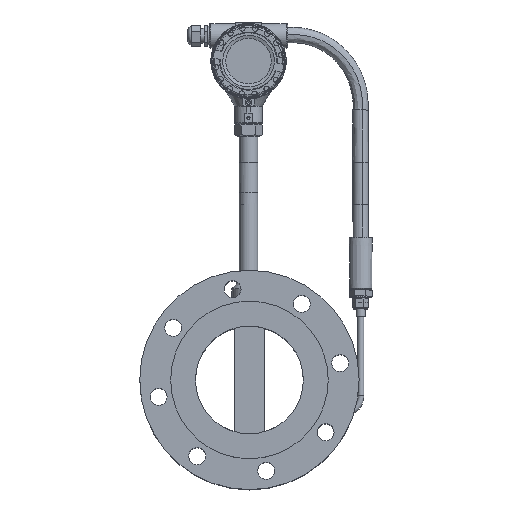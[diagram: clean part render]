
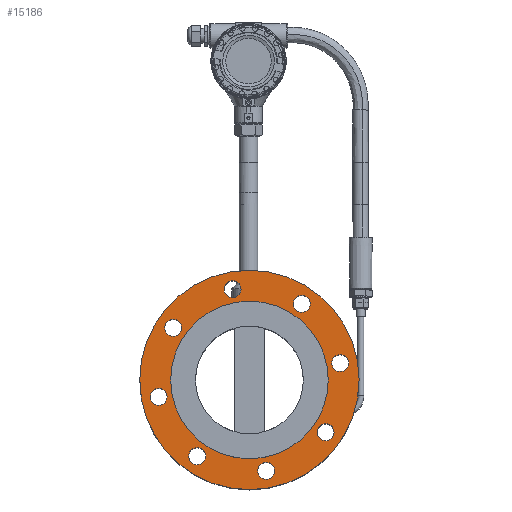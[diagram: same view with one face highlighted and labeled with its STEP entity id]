
A CAD part, top view. The second image highlights one B-rep face of the part: STEP entity #15186.
In plain terms, the highlighted planar face has unit normal (0, 0, 1).
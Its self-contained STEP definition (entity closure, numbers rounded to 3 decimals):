
#578=FACE_BOUND('',#5447,.T.);
#579=FACE_BOUND('',#5448,.T.);
#580=FACE_BOUND('',#5449,.T.);
#581=FACE_BOUND('',#5450,.T.);
#582=FACE_BOUND('',#5451,.T.);
#583=FACE_BOUND('',#5452,.T.);
#584=FACE_BOUND('',#5453,.T.);
#585=FACE_BOUND('',#5454,.T.);
#586=FACE_BOUND('',#5455,.T.);
#1100=PLANE('',#16964);
#4462=FACE_OUTER_BOUND('',#5446,.T.);
#5446=EDGE_LOOP('',(#13864));
#5447=EDGE_LOOP('',(#13865));
#5448=EDGE_LOOP('',(#13866));
#5449=EDGE_LOOP('',(#13867));
#5450=EDGE_LOOP('',(#13868));
#5451=EDGE_LOOP('',(#13869));
#5452=EDGE_LOOP('',(#13870));
#5453=EDGE_LOOP('',(#13871));
#5454=EDGE_LOOP('',(#13872));
#5455=EDGE_LOOP('',(#13873));
#6210=CIRCLE('',#16926,11.);
#6212=CIRCLE('',#16929,11.);
#6214=CIRCLE('',#16932,11.);
#6216=CIRCLE('',#16935,11.);
#6218=CIRCLE('',#16938,11.);
#6220=CIRCLE('',#16941,11.);
#6222=CIRCLE('',#16944,11.);
#6224=CIRCLE('',#16947,11.);
#6230=CIRCLE('',#16956,102.365);
#6232=CIRCLE('',#16961,142.505);
#7546=VERTEX_POINT('',#29641);
#7548=VERTEX_POINT('',#29647);
#7550=VERTEX_POINT('',#29653);
#7552=VERTEX_POINT('',#29659);
#7554=VERTEX_POINT('',#29665);
#7556=VERTEX_POINT('',#29671);
#7558=VERTEX_POINT('',#29677);
#7560=VERTEX_POINT('',#29683);
#7566=VERTEX_POINT('',#29700);
#7568=VERTEX_POINT('',#29709);
#9659=EDGE_CURVE('',#7546,#7546,#6210,.T.);
#9662=EDGE_CURVE('',#7548,#7548,#6212,.T.);
#9665=EDGE_CURVE('',#7550,#7550,#6214,.T.);
#9668=EDGE_CURVE('',#7552,#7552,#6216,.T.);
#9671=EDGE_CURVE('',#7554,#7554,#6218,.T.);
#9674=EDGE_CURVE('',#7556,#7556,#6220,.T.);
#9677=EDGE_CURVE('',#7558,#7558,#6222,.T.);
#9680=EDGE_CURVE('',#7560,#7560,#6224,.T.);
#9689=EDGE_CURVE('',#7566,#7566,#6230,.T.);
#9692=EDGE_CURVE('',#7568,#7568,#6232,.T.);
#13864=ORIENTED_EDGE('',*,*,#9692,.T.);
#13865=ORIENTED_EDGE('',*,*,#9659,.T.);
#13866=ORIENTED_EDGE('',*,*,#9662,.T.);
#13867=ORIENTED_EDGE('',*,*,#9665,.T.);
#13868=ORIENTED_EDGE('',*,*,#9668,.T.);
#13869=ORIENTED_EDGE('',*,*,#9671,.T.);
#13870=ORIENTED_EDGE('',*,*,#9674,.T.);
#13871=ORIENTED_EDGE('',*,*,#9677,.T.);
#13872=ORIENTED_EDGE('',*,*,#9680,.T.);
#13873=ORIENTED_EDGE('',*,*,#9689,.T.);
#15186=ADVANCED_FACE('',(#4462,#578,#579,#580,#581,#582,#583,#584,#585,
#586),#1100,.F.);
#16926=AXIS2_PLACEMENT_3D('',#29642,#21360,#21361);
#16929=AXIS2_PLACEMENT_3D('',#29648,#21367,#21368);
#16932=AXIS2_PLACEMENT_3D('',#29654,#21374,#21375);
#16935=AXIS2_PLACEMENT_3D('',#29660,#21381,#21382);
#16938=AXIS2_PLACEMENT_3D('',#29666,#21388,#21389);
#16941=AXIS2_PLACEMENT_3D('',#29672,#21395,#21396);
#16944=AXIS2_PLACEMENT_3D('',#29678,#21402,#21403);
#16947=AXIS2_PLACEMENT_3D('',#29684,#21409,#21410);
#16956=AXIS2_PLACEMENT_3D('',#29702,#21430,#21431);
#16961=AXIS2_PLACEMENT_3D('',#29710,#21441,#21442);
#16964=AXIS2_PLACEMENT_3D('',#29715,#21448,#21449);
#21360=DIRECTION('center_axis',(0.,0.,
-1.));
#21361=DIRECTION('ref_axis',(1.,0.,0.));
#21367=DIRECTION('center_axis',(0.,0.,
-1.));
#21368=DIRECTION('ref_axis',(1.,0.,0.));
#21374=DIRECTION('center_axis',(0.,0.,
-1.));
#21375=DIRECTION('ref_axis',(1.,0.,0.));
#21381=DIRECTION('center_axis',(0.,0.,
-1.));
#21382=DIRECTION('ref_axis',(1.,0.,0.));
#21388=DIRECTION('center_axis',(0.,0.,
-1.));
#21389=DIRECTION('ref_axis',(1.,0.,0.));
#21395=DIRECTION('center_axis',(0.,0.,
-1.));
#21396=DIRECTION('ref_axis',(1.,0.,0.));
#21402=DIRECTION('center_axis',(0.,0.,
-1.));
#21403=DIRECTION('ref_axis',(1.,0.,0.));
#21409=DIRECTION('center_axis',(0.,0.,
-1.));
#21410=DIRECTION('ref_axis',(1.,0.,0.));
#21430=DIRECTION('center_axis',(0.,0.,
-1.));
#21431=DIRECTION('ref_axis',(1.,0.,0.));
#21441=DIRECTION('center_axis',(0.,0.,
1.));
#21442=DIRECTION('ref_axis',(-1.,0.,0.));
#21448=DIRECTION('center_axis',(0.,0.,
-1.));
#21449=DIRECTION('ref_axis',(-1.,0.,0.));
#29641=CARTESIAN_POINT('',(-285.924,82.044,273.047));
#29642=CARTESIAN_POINT('Origin',(-274.924,82.044,273.047));
#29647=CARTESIAN_POINT('',(-406.789,267.938,273.055));
#29648=CARTESIAN_POINT('Origin',(-395.789,267.938,273.055));
#29653=CARTESIAN_POINT('',(-483.788,217.874,273.053));
#29654=CARTESIAN_POINT('Origin',(-472.788,217.874,273.053));
#29659=CARTESIAN_POINT('',(-362.924,31.98,273.045));
#29660=CARTESIAN_POINT('Origin',(-351.924,31.98,273.045));
#29665=CARTESIAN_POINT('',(-266.878,171.891,273.051));
#29666=CARTESIAN_POINT('Origin',(-255.878,171.891,273.051));
#29671=CARTESIAN_POINT('',(-316.941,248.891,273.054));
#29672=CARTESIAN_POINT('Origin',(-305.941,248.891,273.054));
#29677=CARTESIAN_POINT('',(-502.835,128.027,273.049));
#29678=CARTESIAN_POINT('Origin',(-491.835,128.027,273.049));
#29683=CARTESIAN_POINT('',(-452.771,51.027,273.045));
#29684=CARTESIAN_POINT('Origin',(-441.771,51.027,273.045));
#29700=CARTESIAN_POINT('',(-476.221,149.959,273.05));
#29702=CARTESIAN_POINT('Origin',(-373.856,149.959,273.05));
#29709=CARTESIAN_POINT('',(-231.352,149.959,273.05));
#29710=CARTESIAN_POINT('Origin',(-373.856,149.959,273.05));
#29715=CARTESIAN_POINT('Origin',(-373.856,149.959,273.05));
